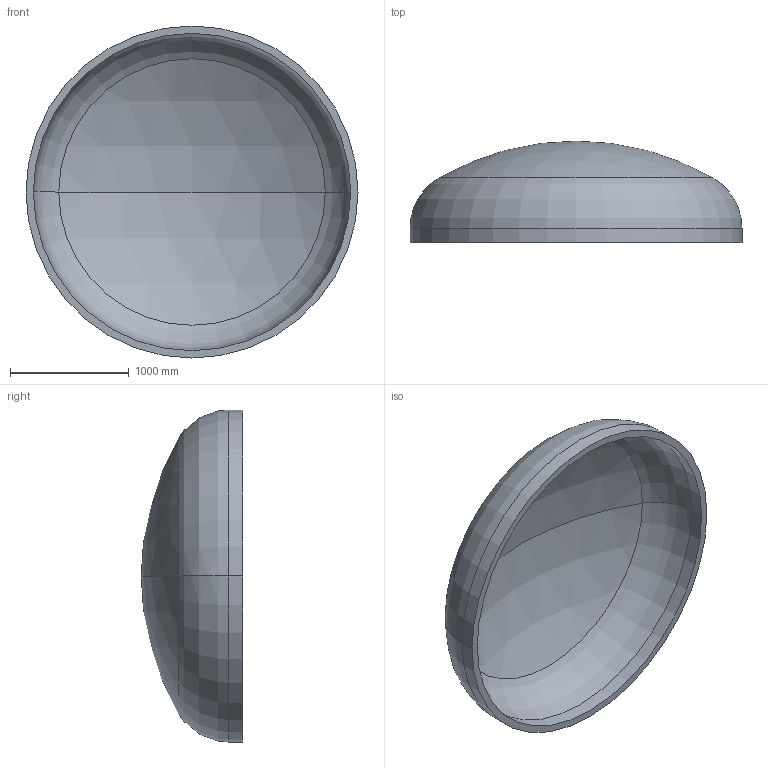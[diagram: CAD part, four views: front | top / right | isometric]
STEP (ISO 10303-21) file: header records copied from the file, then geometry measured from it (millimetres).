
FILE_DESCRIPTION (( 'STEP AP203' ), '1' );
FILE_NAME ('DIN 28013 Korbbogenform_-_Boden DIN 28013 - 2800 x 120 - I - s=62.step', '2016-07-01T17:07:04', ( '' ), ( '' ), 'SwSTEP 2.0', 'SolidWorks 2013', '' );
FILE_SCHEMA (( 'CONFIG_CONTROL_DESIGN' ));
Length unit declared in the file: millimetre
Products named in the file (1): DIN 28013 Korbbogenform_-_Boden DIN 28013 - 2800 x 120 - I - s=62
Bounding box: 2800 x 856.23 x 2800 mm (x, y, z)
Volume: 577285071.9 mm3; surface area: 19163447.9 mm2
Topology: 1 solids, 1 shells, 13 faces, 24 edges, 14 vertices
Faces by surface type: torus 4, cylinder 4, sphere 4, plane 1
Entity records: 407 total; most frequent: DIRECTION 72, CARTESIAN_POINT 52, ORIENTED_EDGE 48, AXIS2_PLACEMENT_3D 34, EDGE_CURVE 24, CIRCLE 20, EDGE_LOOP 14, VERTEX_POINT 14
